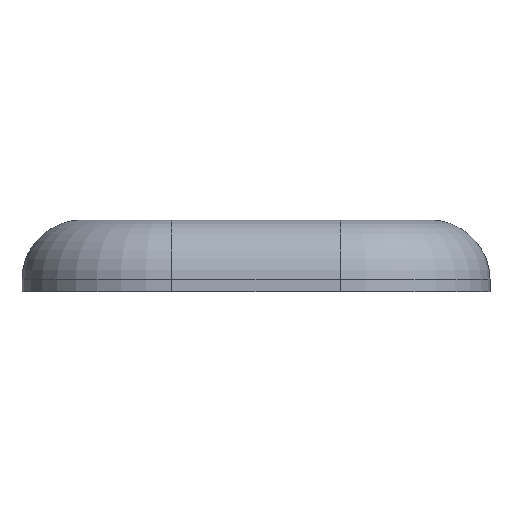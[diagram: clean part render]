
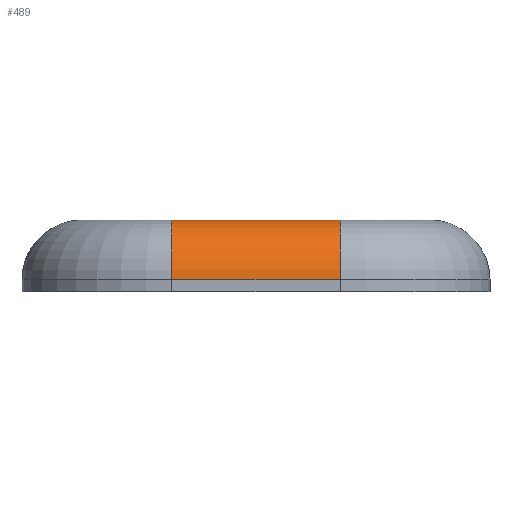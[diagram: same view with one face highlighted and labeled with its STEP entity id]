
A CAD part, front view. The second image highlights one B-rep face of the part: STEP entity #489.
In plain terms, the highlighted cylindrical face has radius 10 mm (diameter 20 mm), a partial arc.
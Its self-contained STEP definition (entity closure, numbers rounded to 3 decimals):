
#489 = ADVANCED_FACE('',(#490),#505,.T.);
#490 = FACE_BOUND('',#491,.T.);
#491 = EDGE_LOOP('',(#492,#516,#532,#549));
#492 = ORIENTED_EDGE('',*,*,#493,.T.);
#493 = EDGE_CURVE('',#494,#496,#498,.T.);
#494 = VERTEX_POINT('',#495);
#495 = CARTESIAN_POINT('',(14.,-75.,-10.));
#496 = VERTEX_POINT('',#497);
#497 = CARTESIAN_POINT('',(14.,-65.,0.));
#498 = SURFACE_CURVE('',#499,(#504),.PCURVE_S1.);
#499 = CIRCLE('',#500,10.);
#500 = AXIS2_PLACEMENT_3D('',#501,#502,#503);
#501 = CARTESIAN_POINT('',(14.,-65.,-10.));
#502 = DIRECTION('',(-1.,0.,0.));
#503 = DIRECTION('',(0.,-1.,0.));
#504 = PCURVE('',#505,#510);
#505 = CYLINDRICAL_SURFACE('',#506,10.);
#506 = AXIS2_PLACEMENT_3D('',#507,#508,#509);
#507 = CARTESIAN_POINT('',(0.,-65.,-10.));
#508 = DIRECTION('',(1.,0.,0.));
#509 = DIRECTION('',(0.,-0.707,0.707));
#510 = DEFINITIONAL_REPRESENTATION('',(#511),#515);
#511 = LINE('',#512,#513);
#512 = CARTESIAN_POINT('',(7.069,14.));
#513 = VECTOR('',#514,1.);
#514 = DIRECTION('',(-1.,0.));
#515 = ( GEOMETRIC_REPRESENTATION_CONTEXT(2) 
PARAMETRIC_REPRESENTATION_CONTEXT() REPRESENTATION_CONTEXT('2D SPACE',''
  ) );
#516 = ORIENTED_EDGE('',*,*,#517,.T.);
#517 = EDGE_CURVE('',#496,#518,#520,.T.);
#518 = VERTEX_POINT('',#519);
#519 = CARTESIAN_POINT('',(-14.,-65.,0.));
#520 = SURFACE_CURVE('',#521,(#525),.PCURVE_S1.);
#521 = LINE('',#522,#523);
#522 = CARTESIAN_POINT('',(0.,-65.,0.));
#523 = VECTOR('',#524,1.);
#524 = DIRECTION('',(-1.,0.,0.));
#525 = PCURVE('',#505,#526);
#526 = DEFINITIONAL_REPRESENTATION('',(#527),#531);
#527 = LINE('',#528,#529);
#528 = CARTESIAN_POINT('',(5.498,0.));
#529 = VECTOR('',#530,1.);
#530 = DIRECTION('',(0.,-1.));
#531 = ( GEOMETRIC_REPRESENTATION_CONTEXT(2) 
PARAMETRIC_REPRESENTATION_CONTEXT() REPRESENTATION_CONTEXT('2D SPACE',''
  ) );
#532 = ORIENTED_EDGE('',*,*,#533,.F.);
#533 = EDGE_CURVE('',#534,#518,#536,.T.);
#534 = VERTEX_POINT('',#535);
#535 = CARTESIAN_POINT('',(-14.,-75.,-10.));
#536 = SURFACE_CURVE('',#537,(#542),.PCURVE_S1.);
#537 = CIRCLE('',#538,10.);
#538 = AXIS2_PLACEMENT_3D('',#539,#540,#541);
#539 = CARTESIAN_POINT('',(-14.,-65.,-10.));
#540 = DIRECTION('',(-1.,0.,0.));
#541 = DIRECTION('',(0.,-1.,0.));
#542 = PCURVE('',#505,#543);
#543 = DEFINITIONAL_REPRESENTATION('',(#544),#548);
#544 = LINE('',#545,#546);
#545 = CARTESIAN_POINT('',(7.069,-14.));
#546 = VECTOR('',#547,1.);
#547 = DIRECTION('',(-1.,0.));
#548 = ( GEOMETRIC_REPRESENTATION_CONTEXT(2) 
PARAMETRIC_REPRESENTATION_CONTEXT() REPRESENTATION_CONTEXT('2D SPACE',''
  ) );
#549 = ORIENTED_EDGE('',*,*,#550,.T.);
#550 = EDGE_CURVE('',#534,#494,#551,.T.);
#551 = SURFACE_CURVE('',#552,(#556),.PCURVE_S1.);
#552 = LINE('',#553,#554);
#553 = CARTESIAN_POINT('',(0.,-75.,-10.));
#554 = VECTOR('',#555,1.);
#555 = DIRECTION('',(1.,0.,0.));
#556 = PCURVE('',#505,#557);
#557 = DEFINITIONAL_REPRESENTATION('',(#558),#562);
#558 = LINE('',#559,#560);
#559 = CARTESIAN_POINT('',(7.069,0.));
#560 = VECTOR('',#561,1.);
#561 = DIRECTION('',(0.,1.));
#562 = ( GEOMETRIC_REPRESENTATION_CONTEXT(2) 
PARAMETRIC_REPRESENTATION_CONTEXT() REPRESENTATION_CONTEXT('2D SPACE',''
  ) );
